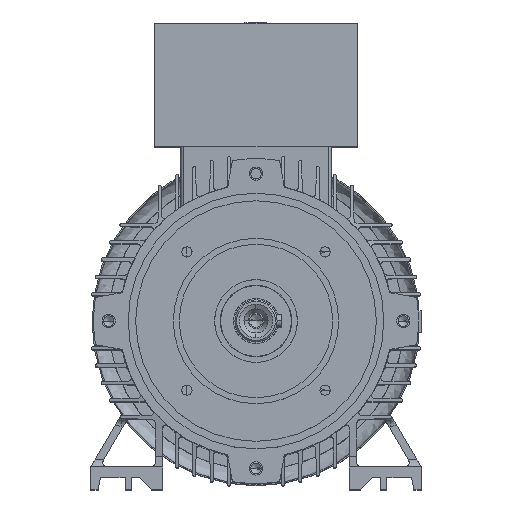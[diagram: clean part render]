
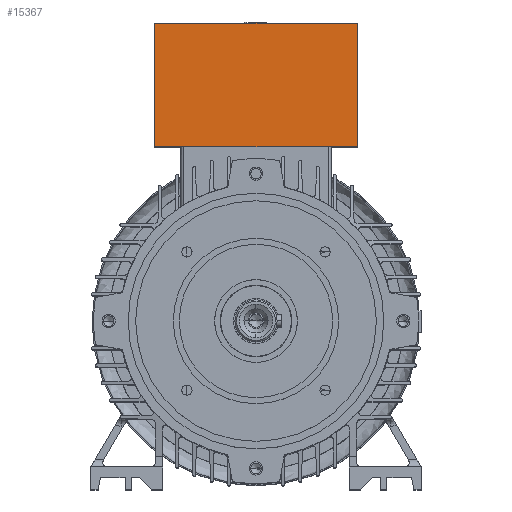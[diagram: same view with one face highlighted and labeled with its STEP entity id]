
A CAD part, top view. The second image highlights one B-rep face of the part: STEP entity #15367.
In plain terms, the highlighted planar face has unit normal (0, 0, 1).
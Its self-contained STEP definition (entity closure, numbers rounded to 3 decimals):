
#2427 = ORIENTED_EDGE ( 'NONE', *, *, #12515, .F. ) ;
#3368 = EDGE_CURVE ( 'NONE', #7424, #9141, #24713, .T. ) ;
#4685 = CARTESIAN_POINT ( 'NONE',  ( -67.5, -74.919, 96.5 ) ) ;
#4718 = FACE_OUTER_BOUND ( 'NONE', #27891, .T. ) ;
#5905 = VECTOR ( 'NONE', #7682, 1000. ) ;
#7424 = VERTEX_POINT ( 'NONE', #14674 ) ;
#7682 = DIRECTION ( 'NONE',  ( 0., -1., 0. ) ) ;
#7937 = CARTESIAN_POINT ( 'NONE',  ( -67.5, 198., 96.5 ) ) ;
#7984 = DIRECTION ( 'NONE',  ( 0., 0., 1. ) ) ;
#9141 = VERTEX_POINT ( 'NONE', #18988 ) ;
#9937 = CARTESIAN_POINT ( 'NONE',  ( -67.5, 198., 96.5 ) ) ;
#10838 = PLANE ( 'NONE',  #24126 ) ;
#10970 = DIRECTION ( 'NONE',  ( 1., 0., 0. ) ) ;
#11123 = CARTESIAN_POINT ( 'NONE',  ( 0., 116., 96.5 ) ) ;
#11604 = CARTESIAN_POINT ( 'NONE',  ( -67.5, -74.919, 96.5 ) ) ;
#11650 = VECTOR ( 'NONE', #25503, 1000. ) ;
#12515 = EDGE_CURVE ( 'NONE', #34040, #36616, #27362, .T. ) ;
#13776 = LINE ( 'NONE', #11123, #18828 ) ;
#14674 = CARTESIAN_POINT ( 'NONE',  ( 67.5, 198., 96.5 ) ) ;
#15367 = ADVANCED_FACE ( 'NONE', ( #4718 ), #10838, .T. ) ;
#17774 = DIRECTION ( 'NONE',  ( 0., 1., 0. ) ) ;
#18828 = VECTOR ( 'NONE', #34445, 1000. ) ;
#18988 = CARTESIAN_POINT ( 'NONE',  ( 67.5, 116., 96.5 ) ) ;
#19134 = EDGE_CURVE ( 'NONE', #36616, #7424, #19404, .T. ) ;
#19404 = LINE ( 'NONE', #7937, #11650 ) ;
#19633 = VECTOR ( 'NONE', #17774, 1000. ) ;
#21949 = CARTESIAN_POINT ( 'NONE',  ( 67.5, -74.919, 96.5 ) ) ;
#24126 = AXIS2_PLACEMENT_3D ( 'NONE', #4685, #7984, #10970 ) ;
#24713 = LINE ( 'NONE', #21949, #5905 ) ;
#25503 = DIRECTION ( 'NONE',  ( 1., 0., 0. ) ) ;
#27362 = LINE ( 'NONE', #11604, #19633 ) ;
#27891 = EDGE_LOOP ( 'NONE', ( #2427, #31682, #34380, #32196 ) ) ;
#31682 = ORIENTED_EDGE ( 'NONE', *, *, #35488, .T. ) ;
#32196 = ORIENTED_EDGE ( 'NONE', *, *, #19134, .F. ) ;
#32979 = CARTESIAN_POINT ( 'NONE',  ( -67.5, 116., 96.5 ) ) ;
#34040 = VERTEX_POINT ( 'NONE', #32979 ) ;
#34380 = ORIENTED_EDGE ( 'NONE', *, *, #3368, .F. ) ;
#34445 = DIRECTION ( 'NONE',  ( 1., 0., 0. ) ) ;
#35488 = EDGE_CURVE ( 'NONE', #34040, #9141, #13776, .T. ) ;
#36616 = VERTEX_POINT ( 'NONE', #9937 ) ;
